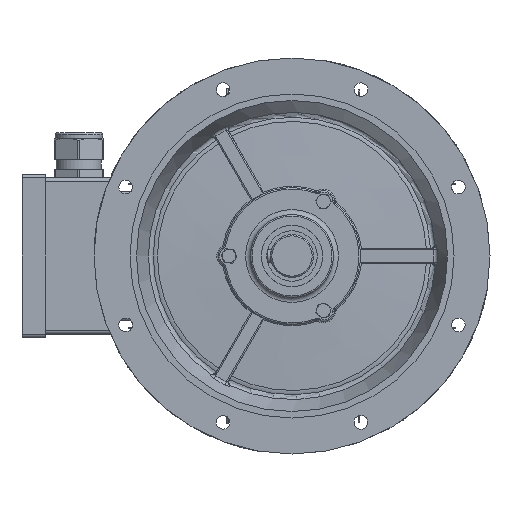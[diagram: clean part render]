
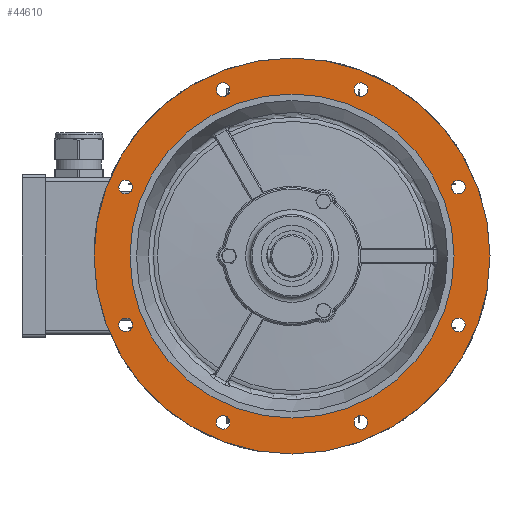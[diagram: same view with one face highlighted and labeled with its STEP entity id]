
A CAD part, left-side view. The second image highlights one B-rep face of the part: STEP entity #44610.
In plain terms, the highlighted planar face has unit normal (-1, 0, 0).
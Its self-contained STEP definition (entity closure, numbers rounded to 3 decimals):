
#10271=FACE_BOUND('',#15489,.T.);
#10272=FACE_BOUND('',#15490,.T.);
#10273=FACE_BOUND('',#15491,.T.);
#10274=FACE_BOUND('',#15492,.T.);
#10275=FACE_BOUND('',#15493,.T.);
#10276=FACE_BOUND('',#15494,.T.);
#10277=FACE_BOUND('',#15495,.T.);
#10278=FACE_BOUND('',#15496,.T.);
#10279=FACE_BOUND('',#15497,.T.);
#12648=FACE_OUTER_BOUND('',#15488,.T.);
#15488=EDGE_LOOP('',(#37356));
#15489=EDGE_LOOP('',(#37357));
#15490=EDGE_LOOP('',(#37358));
#15491=EDGE_LOOP('',(#37359));
#15492=EDGE_LOOP('',(#37360));
#15493=EDGE_LOOP('',(#37361));
#15494=EDGE_LOOP('',(#37362));
#15495=EDGE_LOOP('',(#37363));
#15496=EDGE_LOOP('',(#37364));
#15497=EDGE_LOOP('',(#37365));
#16374=CIRCLE('',#47820,9.5);
#16375=CIRCLE('',#47822,9.5);
#16376=CIRCLE('',#47824,9.5);
#16377=CIRCLE('',#47826,9.5);
#16378=CIRCLE('',#47828,9.5);
#16379=CIRCLE('',#47830,9.5);
#16380=CIRCLE('',#47832,9.5);
#16381=CIRCLE('',#47834,9.5);
#16388=CIRCLE('',#47845,275.);
#16389=CIRCLE('',#47846,225.);
#20146=VERTEX_POINT('',#80148);
#20147=VERTEX_POINT('',#80151);
#20148=VERTEX_POINT('',#80154);
#20149=VERTEX_POINT('',#80157);
#20150=VERTEX_POINT('',#80160);
#20151=VERTEX_POINT('',#80163);
#20152=VERTEX_POINT('',#80166);
#20153=VERTEX_POINT('',#80169);
#20166=VERTEX_POINT('',#80199);
#20167=VERTEX_POINT('',#80201);
#25944=EDGE_CURVE('',#20146,#20146,#16374,.T.);
#25945=EDGE_CURVE('',#20147,#20147,#16375,.T.);
#25946=EDGE_CURVE('',#20148,#20148,#16376,.T.);
#25947=EDGE_CURVE('',#20149,#20149,#16377,.T.);
#25948=EDGE_CURVE('',#20150,#20150,#16378,.T.);
#25949=EDGE_CURVE('',#20151,#20151,#16379,.T.);
#25950=EDGE_CURVE('',#20152,#20152,#16380,.T.);
#25951=EDGE_CURVE('',#20153,#20153,#16381,.T.);
#25964=EDGE_CURVE('',#20166,#20166,#16388,.T.);
#25965=EDGE_CURVE('',#20167,#20167,#16389,.T.);
#37356=ORIENTED_EDGE('',*,*,#25964,.F.);
#37357=ORIENTED_EDGE('',*,*,#25944,.T.);
#37358=ORIENTED_EDGE('',*,*,#25945,.T.);
#37359=ORIENTED_EDGE('',*,*,#25946,.T.);
#37360=ORIENTED_EDGE('',*,*,#25947,.T.);
#37361=ORIENTED_EDGE('',*,*,#25948,.T.);
#37362=ORIENTED_EDGE('',*,*,#25949,.T.);
#37363=ORIENTED_EDGE('',*,*,#25950,.T.);
#37364=ORIENTED_EDGE('',*,*,#25951,.T.);
#37365=ORIENTED_EDGE('',*,*,#25965,.T.);
#39754=PLANE('',#47844);
#44610=ADVANCED_FACE('',(#12648,#10271,#10272,#10273,#10274,#10275,#10276,
#10277,#10278,#10279),#39754,.T.);
#47820=AXIS2_PLACEMENT_3D('',#80149,#58173,#58174);
#47822=AXIS2_PLACEMENT_3D('',#80152,#58177,#58178);
#47824=AXIS2_PLACEMENT_3D('',#80155,#58181,#58182);
#47826=AXIS2_PLACEMENT_3D('',#80158,#58185,#58186);
#47828=AXIS2_PLACEMENT_3D('',#80161,#58189,#58190);
#47830=AXIS2_PLACEMENT_3D('',#80164,#58193,#58194);
#47832=AXIS2_PLACEMENT_3D('',#80167,#58197,#58198);
#47834=AXIS2_PLACEMENT_3D('',#80170,#58201,#58202);
#47844=AXIS2_PLACEMENT_3D('',#80198,#58227,#58228);
#47845=AXIS2_PLACEMENT_3D('',#80200,#58229,#58230);
#47846=AXIS2_PLACEMENT_3D('',#80202,#58231,#58232);
#58173=DIRECTION('center_axis',(1.,0.,0.));
#58174=DIRECTION('ref_axis',(0.,0.707,0.707));
#58177=DIRECTION('center_axis',(1.,0.,0.));
#58178=DIRECTION('ref_axis',(0.,1.,0.));
#58181=DIRECTION('center_axis',(1.,0.,0.));
#58182=DIRECTION('ref_axis',(0.,0.707,-0.707));
#58185=DIRECTION('center_axis',(1.,0.,0.));
#58186=DIRECTION('ref_axis',(0.,0.,-1.));
#58189=DIRECTION('center_axis',(1.,0.,0.));
#58190=DIRECTION('ref_axis',(0.,-0.707,-0.707));
#58193=DIRECTION('center_axis',(1.,0.,0.));
#58194=DIRECTION('ref_axis',(0.,-1.,0.));
#58197=DIRECTION('center_axis',(1.,0.,0.));
#58198=DIRECTION('ref_axis',(0.,-0.707,0.707));
#58201=DIRECTION('center_axis',(1.,0.,0.));
#58202=DIRECTION('ref_axis',(0.,0.,1.));
#58227=DIRECTION('center_axis',(-1.,0.,0.));
#58228=DIRECTION('ref_axis',(0.,0.,1.));
#58229=DIRECTION('center_axis',(1.,0.,0.));
#58230=DIRECTION('ref_axis',(0.,1.,0.));
#58231=DIRECTION('center_axis',(1.,0.,0.));
#58232=DIRECTION('ref_axis',(0.,1.,0.));
#80148=CARTESIAN_POINT('',(140.,88.953,-237.687));
#80149=CARTESIAN_POINT('Origin',(140.,95.671,-230.97));
#80151=CARTESIAN_POINT('',(140.,-105.171,-230.97));
#80152=CARTESIAN_POINT('Origin',(140.,-95.671,-230.97));
#80154=CARTESIAN_POINT('',(140.,-237.687,-88.953));
#80155=CARTESIAN_POINT('Origin',(140.,-230.97,-95.671));
#80157=CARTESIAN_POINT('',(140.,-230.97,105.171));
#80158=CARTESIAN_POINT('Origin',(140.,-230.97,95.671));
#80160=CARTESIAN_POINT('',(140.,-88.953,237.687));
#80161=CARTESIAN_POINT('Origin',(140.,-95.671,230.97));
#80163=CARTESIAN_POINT('',(140.,105.171,230.97));
#80164=CARTESIAN_POINT('Origin',(140.,95.671,230.97));
#80166=CARTESIAN_POINT('',(140.,237.687,88.953));
#80167=CARTESIAN_POINT('Origin',(140.,230.97,95.671));
#80169=CARTESIAN_POINT('',(140.,230.97,-105.171));
#80170=CARTESIAN_POINT('Origin',(140.,230.97,-95.671));
#80198=CARTESIAN_POINT('Origin',(140.,245.5,0.));
#80199=CARTESIAN_POINT('',(140.,275.,0.));
#80200=CARTESIAN_POINT('Origin',(140.,0.,0.));
#80201=CARTESIAN_POINT('',(140.,225.,0.));
#80202=CARTESIAN_POINT('Origin',(140.,0.,0.));
